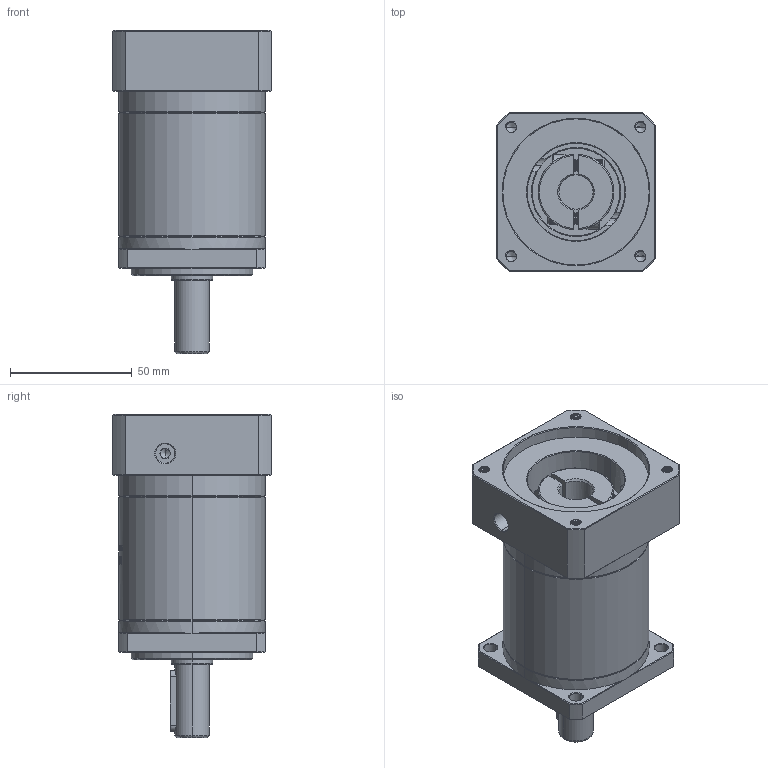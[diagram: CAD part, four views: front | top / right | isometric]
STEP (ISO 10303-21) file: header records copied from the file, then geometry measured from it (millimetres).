
FILE_DESCRIPTION (( 'STEP AP214' ), '1' );
FILE_NAME ('ZF60-D14-L2-14-60-75-M5.STEP', '2022-04-17T11:53:02', ( '' ), ( 'Microsoft' ), 'SwSTEP 2.0', 'SolidWorks 2016', '' );
FILE_SCHEMA (( 'AUTOMOTIVE_DESIGN' ));
Length unit declared in the file: millimetre
Products named in the file (1): ZF60-D14-L2-14-60-75-M5
Bounding box: 65 x 65 x 132.5 mm (x, y, z)
Volume: 283117.6 mm3; surface area: 49834.3 mm2
Topology: 6 solids, 6 shells, 1661 faces, 4484 edges, 2900 vertices
Faces by surface type: plane 749, cylinder 359, bspline 299, cone 234, torus 20
Entity records: 94455 total; most frequent: CARTESIAN_POINT 38258, ORIENTED_EDGE 8940, DIRECTION 6571, EDGE_CURVE 4470, VERTEX_POINT 2900, LINE 2279, VECTOR 2279, AXIS2_PLACEMENT_3D 2146
